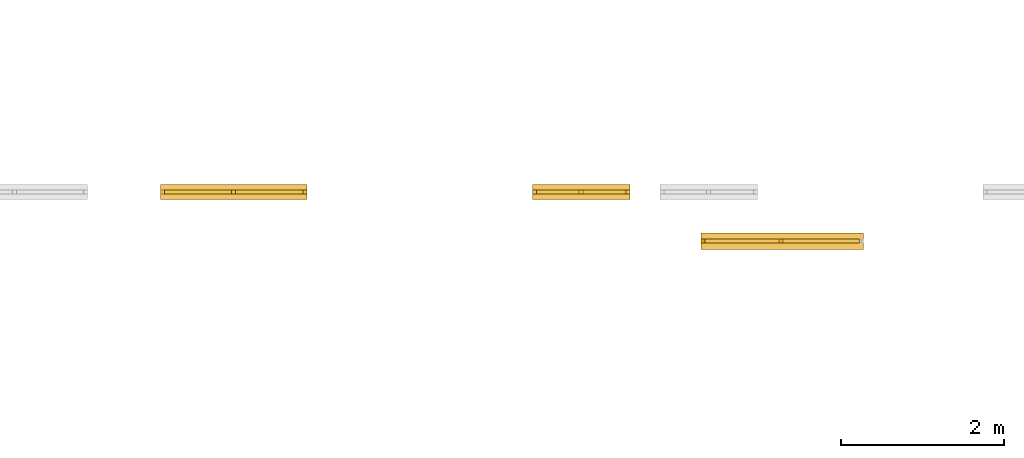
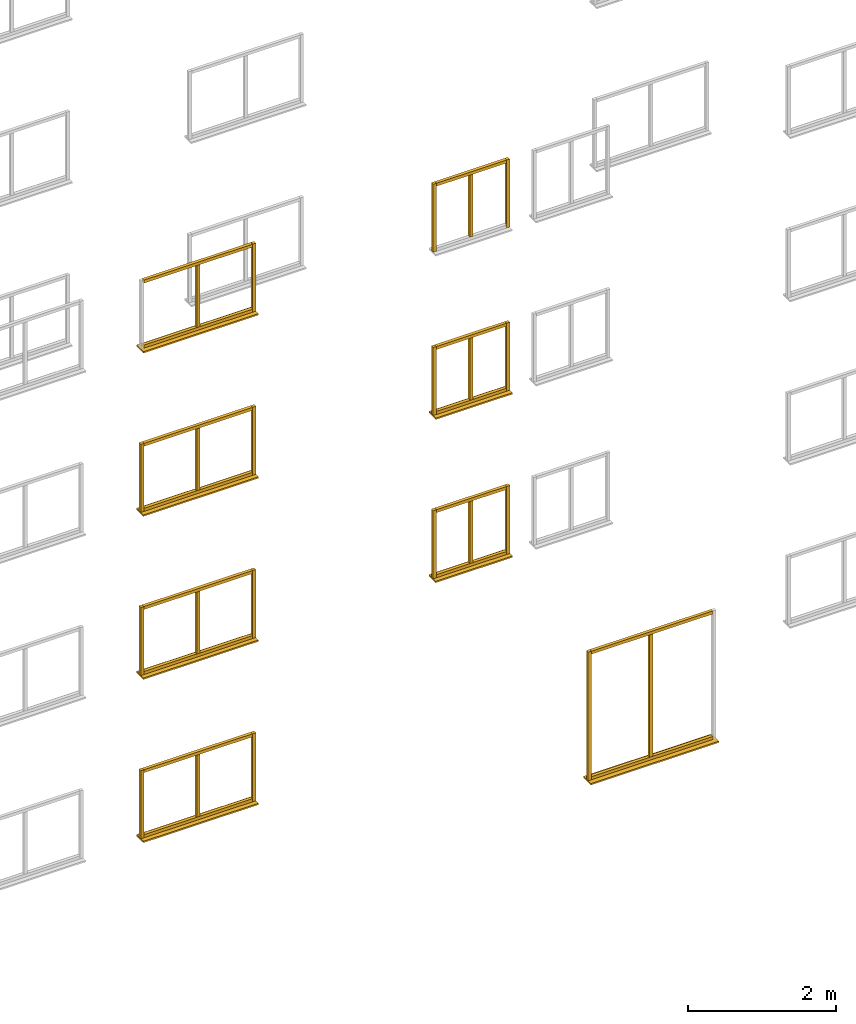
# Not in any storey, part 6 of 22: 44 windows.
"""IFC2X3 model written with IfcOpenShell, lengths in metres."""

from ifc_helpers import new_model, si_unit, frame, origin, place, context, project, faceted_brep, element, save


model = new_model("IFC2X3")

# Units and contexts
model_context = context("Model", 3, precision=1e-06, world=origin())
ifc_project = project(units=[si_unit("LENGTHUNIT", "METRE"), si_unit("PLANEANGLEUNIT", "RADIAN")], contexts=[model_context])

# Windows
placement = place(None, origin())
window_1_placement = place(placement, frame((28.330000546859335, -0.09833720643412, 6.425000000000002), z_axis=(0.0, 0.0, 1.0), x_axis=(1.0, 0.0, 0.0)))
element("IfcWindow", 1, at=window_1_placement, Name="leftFrame", context=model_context, shape_type="Brep", body=[
    faceted_brep([(0.0, 0.05, 0.0), (0.05, 0.05, 0.0), (0.05, 0.0, 0.0), (0.0, 0.0, 0.0), (0.05, 0.0, 1.125), (0.05, 0.05, 1.125), (0.0, 0.05, 1.125), (0.0, 0.0, 1.125), (0.0, 0.05, 0.0), (0.0, 0.0, 0.0), (0.0, 0.0, 1.125), (0.0, 0.05, 1.125), (0.05, 0.05, 0.0), (0.0, 0.05, 0.0), (0.0, 0.05, 1.125), (0.05, 0.05, 1.125), (0.05, 0.0, 0.0), (0.05, 0.05, 0.0), (0.05, 0.05, 1.125), (0.05, 0.0, 1.125), (0.0, 0.0, 0.0), (0.05, 0.0, 0.0), (0.05, 0.0, 1.125), (0.0, 0.0, 1.125)], [[[0, 1, 2, 3]], [[4, 5, 6, 7]], [[8, 9, 10, 11]], [[12, 13, 14, 15]], [[16, 17, 18, 19]], [[20, 21, 22, 23]]]),
])
window_2_placement = place(placement, frame((30.455000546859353, -0.704836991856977, 0.025), z_axis=(0.0, 0.0, 1.0), x_axis=(1.0, 0.0, 0.0)))
element("IfcWindow", 2, at=window_2_placement, Name="bottomFrame", context=model_context, shape_type="Brep", body=[
    faceted_brep([(0.0, 0.05, 0.0), (1.9, 0.05, 0.0), (1.9, 0.0, 0.0), (0.0, 0.0, 0.0), (1.9, 0.0, 0.05), (1.9, 0.05, 0.05), (0.0, 0.05, 0.05), (0.0, 0.0, 0.05), (0.0, 0.05, 0.0), (0.0, 0.0, 0.0), (0.0, 0.0, 0.05), (0.0, 0.05, 0.05), (1.9, 0.05, 0.0), (0.0, 0.05, 0.0), (0.0, 0.05, 0.05), (1.9, 0.05, 0.05), (1.9, 0.0, 0.0), (1.9, 0.05, 0.0), (1.9, 0.05, 0.05), (1.9, 0.0, 0.05), (0.0, 0.0, 0.0), (1.9, 0.0, 0.0), (1.9, 0.0, 0.05), (0.0, 0.0, 0.05)], [[[0, 1, 2, 3]], [[4, 5, 6, 7]], [[8, 9, 10, 11]], [[12, 13, 14, 15]], [[16, 17, 18, 19]], [[20, 21, 22, 23]]]),
])
window_3_placement = place(placement, frame((28.330000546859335, -0.09833720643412, 3.725000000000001), z_axis=(0.0, 0.0, 1.0), x_axis=(1.0, 0.0, 0.0)))
element("IfcWindow", 3, at=window_3_placement, Name="leftFrame", context=model_context, shape_type="Brep", body=[
    faceted_brep([(0.0, 0.05, 0.0), (0.05, 0.05, 0.0), (0.05, 0.0, 0.0), (0.0, 0.0, 0.0), (0.05, 0.0, 1.125), (0.05, 0.05, 1.125), (0.0, 0.05, 1.125), (0.0, 0.0, 1.125), (0.0, 0.05, 0.0), (0.0, 0.0, 0.0), (0.0, 0.0, 1.125), (0.0, 0.05, 1.125), (0.05, 0.05, 0.0), (0.0, 0.05, 0.0), (0.0, 0.05, 1.125), (0.05, 0.05, 1.125), (0.05, 0.0, 0.0), (0.05, 0.05, 0.0), (0.05, 0.05, 1.125), (0.05, 0.0, 1.125), (0.0, 0.0, 0.0), (0.05, 0.0, 0.0), (0.05, 0.0, 1.125), (0.0, 0.0, 1.125)], [[[0, 1, 2, 3]], [[4, 5, 6, 7]], [[8, 9, 10, 11]], [[12, 13, 14, 15]], [[16, 17, 18, 19]], [[20, 21, 22, 23]]]),
])
for number, where, z_axis, x_axis, name in (
    (4, (23.80499999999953, -0.09833720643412, 3.725000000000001), (0.0, 0.0, 1.0), (1.0, 0.0, 0.0), "bottomFrame"),
    (5, (23.80499999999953, -0.09833720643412, 4.800000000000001), (0.0, 0.0, 1.0), (1.0, 0.0, 0.0), "topFrame"),
):
    element("IfcWindow", number, at=place(placement, frame(where, z_axis=z_axis, x_axis=x_axis)), Name=name, context=model_context, shape_type="Brep", body=[
        faceted_brep([(0.0, 0.05, 0.0), (1.7, 0.05, 0.0), (1.7, 0.0, 0.0), (0.0, 0.0, 0.0), (1.7, 0.0, 0.05), (1.7, 0.05, 0.05), (0.0, 0.05, 0.05), (0.0, 0.0, 0.05), (0.0, 0.05, 0.0), (0.0, 0.0, 0.0), (0.0, 0.0, 0.05), (0.0, 0.05, 0.05), (1.7, 0.05, 0.0), (0.0, 0.05, 0.0), (0.0, 0.05, 0.05), (1.7, 0.05, 0.05), (1.7, 0.0, 0.0), (1.7, 0.05, 0.0), (1.7, 0.05, 0.05), (1.7, 0.0, 0.05), (0.0, 0.0, 0.0), (1.7, 0.0, 0.0), (1.7, 0.0, 0.05), (0.0, 0.0, 0.05)], [[[0, 1, 2, 3]], [[4, 5, 6, 7]], [[8, 9, 10, 11]], [[12, 13, 14, 15]], [[16, 17, 18, 19]], [[20, 21, 22, 23]]]),
    ])
window_4_placement = place(placement, frame((24.62999999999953, -0.09833720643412, 3.775000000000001), z_axis=(0.0, 0.0, 1.0), x_axis=(1.0, 0.0, 0.0)))
element("IfcWindow", 6, at=window_4_placement, Name="verticalBar", context=model_context, shape_type="Brep", body=[
    faceted_brep([(0.0, 0.05, 0.0), (0.05, 0.05, 0.0), (0.05, 0.0, 0.0), (0.0, 0.0, 0.0), (0.05, 0.0, 1.025), (0.05, 0.05, 1.025), (0.0, 0.05, 1.025), (0.0, 0.0, 1.025), (0.0, 0.05, 0.0), (0.0, 0.0, 0.0), (0.0, 0.0, 1.025), (0.0, 0.05, 1.025), (0.05, 0.05, 0.0), (0.0, 0.05, 0.0), (0.0, 0.05, 1.025), (0.05, 0.05, 1.025), (0.05, 0.0, 0.0), (0.05, 0.05, 0.0), (0.05, 0.05, 1.025), (0.05, 0.0, 1.025), (0.0, 0.0, 0.0), (0.05, 0.0, 0.0), (0.05, 0.0, 1.025), (0.0, 0.0, 1.025)], [[[0, 1, 2, 3]], [[4, 5, 6, 7]], [[8, 9, 10, 11]], [[12, 13, 14, 15]], [[16, 17, 18, 19]], [[20, 21, 22, 23]]]),
])
window_5_placement = place(placement, frame((23.75499999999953, -0.16683720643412, 3.700000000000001), z_axis=(0.0, 0.0, 1.0), x_axis=(1.0, 0.0, 0.0)))
element("IfcWindow", 7, at=window_5_placement, Name="windowSill", context=model_context, shape_type="Brep", body=[
    faceted_brep([(0.0, 0.187, 0.0), (1.8, 0.187, 0.0), (1.8, 0.0, 0.0), (0.0, 0.0, 0.0), (1.8, 0.0, 0.025), (1.8, 0.187, 0.025), (0.0, 0.187, 0.025), (0.0, 0.0, 0.025), (0.0, 0.187, 0.0), (0.0, 0.0, 0.0), (0.0, 0.0, 0.025), (0.0, 0.187, 0.025), (1.8, 0.187, 0.0), (0.0, 0.187, 0.0), (0.0, 0.187, 0.025), (1.8, 0.187, 0.025), (1.8, 0.0, 0.0), (1.8, 0.187, 0.0), (1.8, 0.187, 0.025), (1.8, 0.0, 0.025), (0.0, 0.0, 0.0), (1.8, 0.0, 0.0), (1.8, 0.0, 0.025), (0.0, 0.0, 0.025)], [[[0, 1, 2, 3]], [[4, 5, 6, 7]], [[8, 9, 10, 11]], [[12, 13, 14, 15]], [[16, 17, 18, 19]], [[20, 21, 22, 23]]]),
])
for number, where, z_axis, x_axis, name in (
    (8, (23.75499999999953, -0.09833720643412, 3.725000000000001), (0.0, 0.0, 1.0), (1.0, 0.0, 0.0), "leftFrame"),
    (9, (25.50499999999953, -0.09833720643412, 3.725000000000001), (0.0, 0.0, 1.0), (1.0, 0.0, 0.0), "rightFrame"),
):
    element("IfcWindow", number, at=place(placement, frame(where, z_axis=z_axis, x_axis=x_axis)), Name=name, context=model_context, shape_type="Brep", body=[
        faceted_brep([(0.0, 0.05, 0.0), (0.05, 0.05, 0.0), (0.05, 0.0, 0.0), (0.0, 0.0, 0.0), (0.05, 0.0, 1.125), (0.05, 0.05, 1.125), (0.0, 0.05, 1.125), (0.0, 0.0, 1.125), (0.0, 0.05, 0.0), (0.0, 0.0, 0.0), (0.0, 0.0, 1.125), (0.0, 0.05, 1.125), (0.05, 0.05, 0.0), (0.0, 0.05, 0.0), (0.0, 0.05, 1.125), (0.05, 0.05, 1.125), (0.05, 0.0, 0.0), (0.05, 0.05, 0.0), (0.05, 0.05, 1.125), (0.05, 0.0, 1.125), (0.0, 0.0, 0.0), (0.05, 0.0, 0.0), (0.05, 0.0, 1.125), (0.0, 0.0, 1.125)], [[[0, 1, 2, 3]], [[4, 5, 6, 7]], [[8, 9, 10, 11]], [[12, 13, 14, 15]], [[16, 17, 18, 19]], [[20, 21, 22, 23]]]),
    ])
window_6_placement = place(placement, frame((24.62999999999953, -0.09833720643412, 1.075), z_axis=(0.0, 0.0, 1.0), x_axis=(1.0, 0.0, 0.0)))
element("IfcWindow", 10, at=window_6_placement, Name="verticalBar", context=model_context, shape_type="Brep", body=[
    faceted_brep([(0.0, 0.05, 0.0), (0.05, 0.05, 0.0), (0.05, 0.0, 0.0), (0.0, 0.0, 0.0), (0.05, 0.0, 1.025), (0.05, 0.05, 1.025), (0.0, 0.05, 1.025), (0.0, 0.0, 1.025), (0.0, 0.05, 0.0), (0.0, 0.0, 0.0), (0.0, 0.0, 1.025), (0.0, 0.05, 1.025), (0.05, 0.05, 0.0), (0.0, 0.05, 0.0), (0.0, 0.05, 1.025), (0.05, 0.05, 1.025), (0.05, 0.0, 0.0), (0.05, 0.05, 0.0), (0.05, 0.05, 1.025), (0.05, 0.0, 1.025), (0.0, 0.0, 0.0), (0.05, 0.0, 0.0), (0.05, 0.0, 1.025), (0.0, 0.0, 1.025)], [[[0, 1, 2, 3]], [[4, 5, 6, 7]], [[8, 9, 10, 11]], [[12, 13, 14, 15]], [[16, 17, 18, 19]], [[20, 21, 22, 23]]]),
])
window_7_placement = place(placement, frame((25.50499999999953, -0.09833720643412, 1.025), z_axis=(0.0, 0.0, 1.0), x_axis=(1.0, 0.0, 0.0)))
element("IfcWindow", 11, at=window_7_placement, Name="rightFrame", context=model_context, shape_type="Brep", body=[
    faceted_brep([(0.0, 0.05, 0.0), (0.05, 0.05, 0.0), (0.05, 0.0, 0.0), (0.0, 0.0, 0.0), (0.05, 0.0, 1.125), (0.05, 0.05, 1.125), (0.0, 0.05, 1.125), (0.0, 0.0, 1.125), (0.0, 0.05, 0.0), (0.0, 0.0, 0.0), (0.0, 0.0, 1.125), (0.0, 0.05, 1.125), (0.05, 0.05, 0.0), (0.0, 0.05, 0.0), (0.0, 0.05, 1.125), (0.05, 0.05, 1.125), (0.05, 0.0, 0.0), (0.05, 0.05, 0.0), (0.05, 0.05, 1.125), (0.05, 0.0, 1.125), (0.0, 0.0, 0.0), (0.05, 0.0, 0.0), (0.05, 0.0, 1.125), (0.0, 0.0, 1.125)], [[[0, 1, 2, 3]], [[4, 5, 6, 7]], [[8, 9, 10, 11]], [[12, 13, 14, 15]], [[16, 17, 18, 19]], [[20, 21, 22, 23]]]),
])
window_8_placement = place(placement, frame((23.80499999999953, -0.09833720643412, 2.100000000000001), z_axis=(0.0, 0.0, 1.0), x_axis=(1.0, 0.0, 0.0)))
element("IfcWindow", 12, at=window_8_placement, Name="topFrame", context=model_context, shape_type="Brep", body=[
    faceted_brep([(0.0, 0.05, 0.0), (1.7, 0.05, 0.0), (1.7, 0.0, 0.0), (0.0, 0.0, 0.0), (1.7, 0.0, 0.05), (1.7, 0.05, 0.05), (0.0, 0.05, 0.05), (0.0, 0.0, 0.05), (0.0, 0.05, 0.0), (0.0, 0.0, 0.0), (0.0, 0.0, 0.05), (0.0, 0.05, 0.05), (1.7, 0.05, 0.0), (0.0, 0.05, 0.0), (0.0, 0.05, 0.05), (1.7, 0.05, 0.05), (1.7, 0.0, 0.0), (1.7, 0.05, 0.0), (1.7, 0.05, 0.05), (1.7, 0.0, 0.05), (0.0, 0.0, 0.0), (1.7, 0.0, 0.0), (1.7, 0.0, 0.05), (0.0, 0.0, 0.05)], [[[0, 1, 2, 3]], [[4, 5, 6, 7]], [[8, 9, 10, 11]], [[12, 13, 14, 15]], [[16, 17, 18, 19]], [[20, 21, 22, 23]]]),
])
window_9_placement = place(placement, frame((23.75499999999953, -0.16683720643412, 1.0), z_axis=(0.0, 0.0, 1.0), x_axis=(1.0, 0.0, 0.0)))
element("IfcWindow", 13, at=window_9_placement, Name="windowSill", context=model_context, shape_type="Brep", body=[
    faceted_brep([(0.0, 0.187, 0.0), (1.8, 0.187, 0.0), (1.8, 0.0, 0.0), (0.0, 0.0, 0.0), (1.8, 0.0, 0.025), (1.8, 0.187, 0.025), (0.0, 0.187, 0.025), (0.0, 0.0, 0.025), (0.0, 0.187, 0.0), (0.0, 0.0, 0.0), (0.0, 0.0, 0.025), (0.0, 0.187, 0.025), (1.8, 0.187, 0.0), (0.0, 0.187, 0.0), (0.0, 0.187, 0.025), (1.8, 0.187, 0.025), (1.8, 0.0, 0.0), (1.8, 0.187, 0.0), (1.8, 0.187, 0.025), (1.8, 0.0, 0.025), (0.0, 0.0, 0.0), (1.8, 0.0, 0.0), (1.8, 0.0, 0.025), (0.0, 0.0, 0.025)], [[[0, 1, 2, 3]], [[4, 5, 6, 7]], [[8, 9, 10, 11]], [[12, 13, 14, 15]], [[16, 17, 18, 19]], [[20, 21, 22, 23]]]),
])
window_10_placement = place(placement, frame((23.80499999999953, -0.09833720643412, 1.025), z_axis=(0.0, 0.0, 1.0), x_axis=(1.0, 0.0, 0.0)))
element("IfcWindow", 14, at=window_10_placement, Name="bottomFrame", context=model_context, shape_type="Brep", body=[
    faceted_brep([(0.0, 0.05, 0.0), (1.7, 0.05, 0.0), (1.7, 0.0, 0.0), (0.0, 0.0, 0.0), (1.7, 0.0, 0.05), (1.7, 0.05, 0.05), (0.0, 0.05, 0.05), (0.0, 0.0, 0.05), (0.0, 0.05, 0.0), (0.0, 0.0, 0.0), (0.0, 0.0, 0.05), (0.0, 0.05, 0.05), (1.7, 0.05, 0.0), (0.0, 0.05, 0.0), (0.0, 0.05, 0.05), (1.7, 0.05, 0.05), (1.7, 0.0, 0.0), (1.7, 0.05, 0.0), (1.7, 0.05, 0.05), (1.7, 0.0, 0.05), (0.0, 0.0, 0.0), (1.7, 0.0, 0.0), (1.7, 0.0, 0.05), (0.0, 0.0, 0.05)], [[[0, 1, 2, 3]], [[4, 5, 6, 7]], [[8, 9, 10, 11]], [[12, 13, 14, 15]], [[16, 17, 18, 19]], [[20, 21, 22, 23]]]),
])
for number, where, z_axis, x_axis, name in (
    (15, (25.50499999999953, -0.09833720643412, 9.125000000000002), (0.0, 0.0, 1.0), (1.0, 0.0, 0.0), "rightFrame"),
    (16, (29.480000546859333, -0.09833720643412, 9.125000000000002), (0.0, 0.0, 1.0), (1.0, 0.0, 0.0), "rightFrame"),
):
    element("IfcWindow", number, at=place(placement, frame(where, z_axis=z_axis, x_axis=x_axis)), Name=name, context=model_context, shape_type="Brep", body=[
        faceted_brep([(0.0, 0.05, 0.0), (0.05, 0.05, 0.0), (0.05, 0.0, 0.0), (0.0, 0.0, 0.0), (0.05, 0.0, 1.125), (0.05, 0.05, 1.125), (0.0, 0.05, 1.125), (0.0, 0.0, 1.125), (0.0, 0.05, 0.0), (0.0, 0.0, 0.0), (0.0, 0.0, 1.125), (0.0, 0.05, 1.125), (0.05, 0.05, 0.0), (0.0, 0.05, 0.0), (0.0, 0.05, 1.125), (0.05, 0.05, 1.125), (0.05, 0.0, 0.0), (0.05, 0.05, 0.0), (0.05, 0.05, 1.125), (0.05, 0.0, 1.125), (0.0, 0.0, 0.0), (0.05, 0.0, 0.0), (0.05, 0.0, 1.125), (0.0, 0.0, 1.125)], [[[0, 1, 2, 3]], [[4, 5, 6, 7]], [[8, 9, 10, 11]], [[12, 13, 14, 15]], [[16, 17, 18, 19]], [[20, 21, 22, 23]]]),
    ])
window_11_placement = place(placement, frame((23.75499999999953, -0.16683720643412, 6.400000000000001), z_axis=(0.0, 0.0, 1.0), x_axis=(1.0, 0.0, 0.0)))
element("IfcWindow", 17, at=window_11_placement, Name="windowSill", context=model_context, shape_type="Brep", body=[
    faceted_brep([(0.0, 0.187, 0.0), (1.8, 0.187, 0.0), (1.8, 0.0, 0.0), (0.0, 0.0, 0.0), (1.8, 0.0, 0.025), (1.8, 0.187, 0.025), (0.0, 0.187, 0.025), (0.0, 0.0, 0.025), (0.0, 0.187, 0.0), (0.0, 0.0, 0.0), (0.0, 0.0, 0.025), (0.0, 0.187, 0.025), (1.8, 0.187, 0.0), (0.0, 0.187, 0.0), (0.0, 0.187, 0.025), (1.8, 0.187, 0.025), (1.8, 0.0, 0.0), (1.8, 0.187, 0.0), (1.8, 0.187, 0.025), (1.8, 0.0, 0.025), (0.0, 0.0, 0.0), (1.8, 0.0, 0.0), (1.8, 0.0, 0.025), (0.0, 0.0, 0.025)], [[[0, 1, 2, 3]], [[4, 5, 6, 7]], [[8, 9, 10, 11]], [[12, 13, 14, 15]], [[16, 17, 18, 19]], [[20, 21, 22, 23]]]),
])
window_12_placement = place(placement, frame((25.50499999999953, -0.09833720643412, 6.425000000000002), z_axis=(0.0, 0.0, 1.0), x_axis=(1.0, 0.0, 0.0)))
element("IfcWindow", 18, at=window_12_placement, Name="rightFrame", context=model_context, shape_type="Brep", body=[
    faceted_brep([(0.0, 0.05, 0.0), (0.05, 0.05, 0.0), (0.05, 0.0, 0.0), (0.0, 0.0, 0.0), (0.05, 0.0, 1.125), (0.05, 0.05, 1.125), (0.0, 0.05, 1.125), (0.0, 0.0, 1.125), (0.0, 0.05, 0.0), (0.0, 0.0, 0.0), (0.0, 0.0, 1.125), (0.0, 0.05, 1.125), (0.05, 0.05, 0.0), (0.0, 0.05, 0.0), (0.0, 0.05, 1.125), (0.05, 0.05, 1.125), (0.05, 0.0, 0.0), (0.05, 0.05, 0.0), (0.05, 0.05, 1.125), (0.05, 0.0, 1.125), (0.0, 0.0, 0.0), (0.05, 0.0, 0.0), (0.05, 0.0, 1.125), (0.0, 0.0, 1.125)], [[[0, 1, 2, 3]], [[4, 5, 6, 7]], [[8, 9, 10, 11]], [[12, 13, 14, 15]], [[16, 17, 18, 19]], [[20, 21, 22, 23]]]),
])
window_13_placement = place(placement, frame((24.62999999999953, -0.09833720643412, 6.475000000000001), z_axis=(0.0, 0.0, 1.0), x_axis=(1.0, 0.0, 0.0)))
element("IfcWindow", 19, at=window_13_placement, Name="verticalBar", context=model_context, shape_type="Brep", body=[
    faceted_brep([(0.0, 0.05, 0.0), (0.05, 0.05, 0.0), (0.05, 0.0, 0.0), (0.0, 0.0, 0.0), (0.05, 0.0, 1.025), (0.05, 0.05, 1.025), (0.0, 0.05, 1.025), (0.0, 0.0, 1.025), (0.0, 0.05, 0.0), (0.0, 0.0, 0.0), (0.0, 0.0, 1.025), (0.0, 0.05, 1.025), (0.05, 0.05, 0.0), (0.0, 0.05, 0.0), (0.0, 0.05, 1.025), (0.05, 0.05, 1.025), (0.05, 0.0, 0.0), (0.05, 0.05, 0.0), (0.05, 0.05, 1.025), (0.05, 0.0, 1.025), (0.0, 0.0, 0.0), (0.05, 0.0, 0.0), (0.05, 0.0, 1.025), (0.0, 0.0, 1.025)], [[[0, 1, 2, 3]], [[4, 5, 6, 7]], [[8, 9, 10, 11]], [[12, 13, 14, 15]], [[16, 17, 18, 19]], [[20, 21, 22, 23]]]),
])
window_14_placement = place(placement, frame((23.80499999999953, -0.09833720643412, 7.500000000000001), z_axis=(0.0, 0.0, 1.0), x_axis=(1.0, 0.0, 0.0)))
element("IfcWindow", 20, at=window_14_placement, Name="topFrame", context=model_context, shape_type="Brep", body=[
    faceted_brep([(0.0, 0.05, 0.0), (1.7, 0.05, 0.0), (1.7, 0.0, 0.0), (0.0, 0.0, 0.0), (1.7, 0.0, 0.05), (1.7, 0.05, 0.05), (0.0, 0.05, 0.05), (0.0, 0.0, 0.05), (0.0, 0.05, 0.0), (0.0, 0.0, 0.0), (0.0, 0.0, 0.05), (0.0, 0.05, 0.05), (1.7, 0.05, 0.0), (0.0, 0.05, 0.0), (0.0, 0.05, 0.05), (1.7, 0.05, 0.05), (1.7, 0.0, 0.0), (1.7, 0.05, 0.0), (1.7, 0.05, 0.05), (1.7, 0.0, 0.05), (0.0, 0.0, 0.0), (1.7, 0.0, 0.0), (1.7, 0.0, 0.05), (0.0, 0.0, 0.05)], [[[0, 1, 2, 3]], [[4, 5, 6, 7]], [[8, 9, 10, 11]], [[12, 13, 14, 15]], [[16, 17, 18, 19]], [[20, 21, 22, 23]]]),
])
window_15_placement = place(placement, frame((28.330000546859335, -0.16683720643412, 6.400000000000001), z_axis=(0.0, 0.0, 1.0), x_axis=(1.0, 0.0, 0.0)))
element("IfcWindow", 21, at=window_15_placement, Name="windowSill", context=model_context, shape_type="Brep", body=[
    faceted_brep([(0.0, 0.187, 0.0), (1.2, 0.187, 0.0), (1.2, 0.0, 0.0), (0.0, 0.0, 0.0), (1.2, 0.0, 0.025), (1.2, 0.187, 0.025), (0.0, 0.187, 0.025), (0.0, 0.0, 0.025), (0.0, 0.187, 0.0), (0.0, 0.0, 0.0), (0.0, 0.0, 0.025), (0.0, 0.187, 0.025), (1.2, 0.187, 0.0), (0.0, 0.187, 0.0), (0.0, 0.187, 0.025), (1.2, 0.187, 0.025), (1.2, 0.0, 0.0), (1.2, 0.187, 0.0), (1.2, 0.187, 0.025), (1.2, 0.0, 0.025), (0.0, 0.0, 0.0), (1.2, 0.0, 0.0), (1.2, 0.0, 0.025), (0.0, 0.0, 0.025)], [[[0, 1, 2, 3]], [[4, 5, 6, 7]], [[8, 9, 10, 11]], [[12, 13, 14, 15]], [[16, 17, 18, 19]], [[20, 21, 22, 23]]]),
])
window_16_placement = place(placement, frame((28.380000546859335, -0.09833720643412, 6.425000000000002), z_axis=(0.0, 0.0, 1.0), x_axis=(1.0, 0.0, 0.0)))
element("IfcWindow", 22, at=window_16_placement, Name="bottomFrame", context=model_context, shape_type="Brep", body=[
    faceted_brep([(0.0, 0.05, 0.0), (1.1, 0.05, 0.0), (1.1, 0.0, 0.0), (0.0, 0.0, 0.0), (1.1, 0.0, 0.05), (1.1, 0.05, 0.05), (0.0, 0.05, 0.05), (0.0, 0.0, 0.05), (0.0, 0.05, 0.0), (0.0, 0.0, 0.0), (0.0, 0.0, 0.05), (0.0, 0.05, 0.05), (1.1, 0.05, 0.0), (0.0, 0.05, 0.0), (0.0, 0.05, 0.05), (1.1, 0.05, 0.05), (1.1, 0.0, 0.0), (1.1, 0.05, 0.0), (1.1, 0.05, 0.05), (1.1, 0.0, 0.05), (0.0, 0.0, 0.0), (1.1, 0.0, 0.0), (1.1, 0.0, 0.05), (0.0, 0.0, 0.05)], [[[0, 1, 2, 3]], [[4, 5, 6, 7]], [[8, 9, 10, 11]], [[12, 13, 14, 15]], [[16, 17, 18, 19]], [[20, 21, 22, 23]]]),
])
window_17_placement = place(placement, frame((28.905000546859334, -0.09833720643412, 6.475000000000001), z_axis=(0.0, 0.0, 1.0), x_axis=(1.0, 0.0, 0.0)))
element("IfcWindow", 23, at=window_17_placement, Name="verticalBar", context=model_context, shape_type="Brep", body=[
    faceted_brep([(0.0, 0.05, 0.0), (0.05, 0.05, 0.0), (0.05, 0.0, 0.0), (0.0, 0.0, 0.0), (0.05, 0.0, 1.025), (0.05, 0.05, 1.025), (0.0, 0.05, 1.025), (0.0, 0.0, 1.025), (0.0, 0.05, 0.0), (0.0, 0.0, 0.0), (0.0, 0.0, 1.025), (0.0, 0.05, 1.025), (0.05, 0.05, 0.0), (0.0, 0.05, 0.0), (0.0, 0.05, 1.025), (0.05, 0.05, 1.025), (0.05, 0.0, 0.0), (0.05, 0.05, 0.0), (0.05, 0.05, 1.025), (0.05, 0.0, 1.025), (0.0, 0.0, 0.0), (0.05, 0.0, 0.0), (0.05, 0.0, 1.025), (0.0, 0.0, 1.025)], [[[0, 1, 2, 3]], [[4, 5, 6, 7]], [[8, 9, 10, 11]], [[12, 13, 14, 15]], [[16, 17, 18, 19]], [[20, 21, 22, 23]]]),
])
window_18_placement = place(placement, frame((29.480000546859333, -0.09833720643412, 6.425000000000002), z_axis=(0.0, 0.0, 1.0), x_axis=(1.0, 0.0, 0.0)))
element("IfcWindow", 24, at=window_18_placement, Name="rightFrame", context=model_context, shape_type="Brep", body=[
    faceted_brep([(0.0, 0.05, 0.0), (0.05, 0.05, 0.0), (0.05, 0.0, 0.0), (0.0, 0.0, 0.0), (0.05, 0.0, 1.125), (0.05, 0.05, 1.125), (0.0, 0.05, 1.125), (0.0, 0.0, 1.125), (0.0, 0.05, 0.0), (0.0, 0.0, 0.0), (0.0, 0.0, 1.125), (0.0, 0.05, 1.125), (0.05, 0.05, 0.0), (0.0, 0.05, 0.0), (0.0, 0.05, 1.125), (0.05, 0.05, 1.125), (0.05, 0.0, 0.0), (0.05, 0.05, 0.0), (0.05, 0.05, 1.125), (0.05, 0.0, 1.125), (0.0, 0.0, 0.0), (0.05, 0.0, 0.0), (0.05, 0.0, 1.125), (0.0, 0.0, 1.125)], [[[0, 1, 2, 3]], [[4, 5, 6, 7]], [[8, 9, 10, 11]], [[12, 13, 14, 15]], [[16, 17, 18, 19]], [[20, 21, 22, 23]]]),
])
window_19_placement = place(placement, frame((28.380000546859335, -0.09833720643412, 7.500000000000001), z_axis=(0.0, 0.0, 1.0), x_axis=(1.0, 0.0, 0.0)))
element("IfcWindow", 25, at=window_19_placement, Name="topFrame", context=model_context, shape_type="Brep", body=[
    faceted_brep([(0.0, 0.05, 0.0), (1.1, 0.05, 0.0), (1.1, 0.0, 0.0), (0.0, 0.0, 0.0), (1.1, 0.0, 0.05), (1.1, 0.05, 0.05), (0.0, 0.05, 0.05), (0.0, 0.0, 0.05), (0.0, 0.05, 0.0), (0.0, 0.0, 0.0), (0.0, 0.0, 0.05), (0.0, 0.05, 0.05), (1.1, 0.05, 0.0), (0.0, 0.05, 0.0), (0.0, 0.05, 0.05), (1.1, 0.05, 0.05), (1.1, 0.0, 0.0), (1.1, 0.05, 0.0), (1.1, 0.05, 0.05), (1.1, 0.0, 0.05), (0.0, 0.0, 0.0), (1.1, 0.0, 0.0), (1.1, 0.0, 0.05), (0.0, 0.0, 0.05)], [[[0, 1, 2, 3]], [[4, 5, 6, 7]], [[8, 9, 10, 11]], [[12, 13, 14, 15]], [[16, 17, 18, 19]], [[20, 21, 22, 23]]]),
])
window_20_placement = place(placement, frame((23.80499999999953, -0.09833720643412, 6.425000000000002), z_axis=(0.0, 0.0, 1.0), x_axis=(1.0, 0.0, 0.0)))
element("IfcWindow", 26, at=window_20_placement, Name="bottomFrame", context=model_context, shape_type="Brep", body=[
    faceted_brep([(0.0, 0.05, 0.0), (1.7, 0.05, 0.0), (1.7, 0.0, 0.0), (0.0, 0.0, 0.0), (1.7, 0.0, 0.05), (1.7, 0.05, 0.05), (0.0, 0.05, 0.05), (0.0, 0.0, 0.05), (0.0, 0.05, 0.0), (0.0, 0.0, 0.0), (0.0, 0.0, 0.05), (0.0, 0.05, 0.05), (1.7, 0.05, 0.0), (0.0, 0.05, 0.0), (0.0, 0.05, 0.05), (1.7, 0.05, 0.05), (1.7, 0.0, 0.0), (1.7, 0.05, 0.0), (1.7, 0.05, 0.05), (1.7, 0.0, 0.05), (0.0, 0.0, 0.0), (1.7, 0.0, 0.0), (1.7, 0.0, 0.05), (0.0, 0.0, 0.05)], [[[0, 1, 2, 3]], [[4, 5, 6, 7]], [[8, 9, 10, 11]], [[12, 13, 14, 15]], [[16, 17, 18, 19]], [[20, 21, 22, 23]]]),
])
window_21_placement = place(placement, frame((31.36750054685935, -0.704836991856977, 0.075), z_axis=(0.0, 0.0, 1.0), x_axis=(1.0, 0.0, 0.0)))
element("IfcWindow", 27, at=window_21_placement, Name="verticalLeftBar", context=model_context, shape_type="Brep", body=[
    faceted_brep([(0.0, 0.05, 0.0), (0.05, 0.05, 0.0), (0.05, 0.0, 0.0), (0.0, 0.0, 0.0), (0.05, 0.0, 2.025), (0.05, 0.05, 2.025), (0.0, 0.05, 2.025), (0.0, 0.0, 2.025), (0.0, 0.05, 0.0), (0.0, 0.0, 0.0), (0.0, 0.0, 2.025), (0.0, 0.05, 2.025), (0.05, 0.05, 0.0), (0.0, 0.05, 0.0), (0.0, 0.05, 2.025), (0.05, 0.05, 2.025), (0.05, 0.0, 0.0), (0.05, 0.05, 0.0), (0.05, 0.05, 2.025), (0.05, 0.0, 2.025), (0.0, 0.0, 0.0), (0.05, 0.0, 0.0), (0.05, 0.0, 2.025), (0.0, 0.0, 2.025)], [[[0, 1, 2, 3]], [[4, 5, 6, 7]], [[8, 9, 10, 11]], [[12, 13, 14, 15]], [[16, 17, 18, 19]], [[20, 21, 22, 23]]]),
])
window_22_placement = place(placement, frame((30.405000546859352, -0.704836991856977, 0.025), z_axis=(0.0, 0.0, 1.0), x_axis=(1.0, 0.0, 0.0)))
element("IfcWindow", 28, at=window_22_placement, Name="leftFrame", context=model_context, shape_type="Brep", body=[
    faceted_brep([(0.0, 0.05, 0.0), (0.05, 0.05, 0.0), (0.05, 0.0, 0.0), (0.0, 0.0, 0.0), (0.05, 0.0, 2.125), (0.05, 0.05, 2.125), (0.0, 0.05, 2.125), (0.0, 0.0, 2.125), (0.0, 0.05, 0.0), (0.0, 0.0, 0.0), (0.0, 0.0, 2.125), (0.0, 0.05, 2.125), (0.05, 0.05, 0.0), (0.0, 0.05, 0.0), (0.0, 0.05, 2.125), (0.05, 0.05, 2.125), (0.05, 0.0, 0.0), (0.05, 0.05, 0.0), (0.05, 0.05, 2.125), (0.05, 0.0, 2.125), (0.0, 0.0, 0.0), (0.05, 0.0, 0.0), (0.05, 0.0, 2.125), (0.0, 0.0, 2.125)], [[[0, 1, 2, 3]], [[4, 5, 6, 7]], [[8, 9, 10, 11]], [[12, 13, 14, 15]], [[16, 17, 18, 19]], [[20, 21, 22, 23]]]),
])
window_23_placement = place(placement, frame((30.455000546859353, -0.704836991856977, 2.1), z_axis=(0.0, 0.0, 1.0), x_axis=(1.0, 0.0, 0.0)))
element("IfcWindow", 29, at=window_23_placement, Name="topFrame", context=model_context, shape_type="Brep", body=[
    faceted_brep([(0.0, 0.05, 0.0), (1.9, 0.05, 0.0), (1.9, 0.0, 0.0), (0.0, 0.0, 0.0), (1.9, 0.0, 0.05), (1.9, 0.05, 0.05), (0.0, 0.05, 0.05), (0.0, 0.0, 0.05), (0.0, 0.05, 0.0), (0.0, 0.0, 0.0), (0.0, 0.0, 0.05), (0.0, 0.05, 0.05), (1.9, 0.05, 0.0), (0.0, 0.05, 0.0), (0.0, 0.05, 0.05), (1.9, 0.05, 0.05), (1.9, 0.0, 0.0), (1.9, 0.05, 0.0), (1.9, 0.05, 0.05), (1.9, 0.0, 0.05), (0.0, 0.0, 0.0), (1.9, 0.0, 0.0), (1.9, 0.0, 0.05), (0.0, 0.0, 0.05)], [[[0, 1, 2, 3]], [[4, 5, 6, 7]], [[8, 9, 10, 11]], [[12, 13, 14, 15]], [[16, 17, 18, 19]], [[20, 21, 22, 23]]]),
])
window_24_placement = place(placement, frame((30.405000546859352, -0.779836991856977, 0.0), z_axis=(0.0, 0.0, 1.0), x_axis=(1.0, 0.0, 0.0)))
element("IfcWindow", 30, at=window_24_placement, Name="windowSill", context=model_context, shape_type="Brep", body=[
    faceted_brep([(0.0, 0.2, 0.0), (2.0, 0.2, 0.0), (2.0, 0.0, 0.0), (0.0, 0.0, 0.0), (2.0, 0.0, 0.025), (2.0, 0.2, 0.025), (0.0, 0.2, 0.025), (0.0, 0.0, 0.025), (0.0, 0.2, 0.0), (0.0, 0.0, 0.0), (0.0, 0.0, 0.025), (0.0, 0.2, 0.025), (2.0, 0.2, 0.0), (0.0, 0.2, 0.0), (0.0, 0.2, 0.025), (2.0, 0.2, 0.025), (2.0, 0.0, 0.0), (2.0, 0.2, 0.0), (2.0, 0.2, 0.025), (2.0, 0.0, 0.025), (0.0, 0.0, 0.0), (2.0, 0.0, 0.0), (2.0, 0.0, 0.025), (0.0, 0.0, 0.025)], [[[0, 1, 2, 3]], [[4, 5, 6, 7]], [[8, 9, 10, 11]], [[12, 13, 14, 15]], [[16, 17, 18, 19]], [[20, 21, 22, 23]]]),
])
window_25_placement = place(placement, frame((23.75499999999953, -0.09833720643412, 1.025), z_axis=(0.0, 0.0, 1.0), x_axis=(1.0, 0.0, 0.0)))
element("IfcWindow", 31, at=window_25_placement, Name="leftFrame", context=model_context, shape_type="Brep", body=[
    faceted_brep([(0.0, 0.05, 0.0), (0.05, 0.05, 0.0), (0.05, 0.0, 0.0), (0.0, 0.0, 0.0), (0.05, 0.0, 1.125), (0.05, 0.05, 1.125), (0.0, 0.05, 1.125), (0.0, 0.0, 1.125), (0.0, 0.05, 0.0), (0.0, 0.0, 0.0), (0.0, 0.0, 1.125), (0.0, 0.05, 1.125), (0.05, 0.05, 0.0), (0.0, 0.05, 0.0), (0.0, 0.05, 1.125), (0.05, 0.05, 1.125), (0.05, 0.0, 0.0), (0.05, 0.05, 0.0), (0.05, 0.05, 1.125), (0.05, 0.0, 1.125), (0.0, 0.0, 0.0), (0.05, 0.0, 0.0), (0.05, 0.0, 1.125), (0.0, 0.0, 1.125)], [[[0, 1, 2, 3]], [[4, 5, 6, 7]], [[8, 9, 10, 11]], [[12, 13, 14, 15]], [[16, 17, 18, 19]], [[20, 21, 22, 23]]]),
])
window_26_placement = place(placement, frame((23.80499999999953, -0.09833720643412, 10.200000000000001), z_axis=(0.0, 0.0, 1.0), x_axis=(1.0, 0.0, 0.0)))
element("IfcWindow", 32, at=window_26_placement, Name="topFrame", context=model_context, shape_type="Brep", body=[
    faceted_brep([(0.0, 0.05, 0.0), (1.7, 0.05, 0.0), (1.7, 0.0, 0.0), (0.0, 0.0, 0.0), (1.7, 0.0, 0.05), (1.7, 0.05, 0.05), (0.0, 0.05, 0.05), (0.0, 0.0, 0.05), (0.0, 0.05, 0.0), (0.0, 0.0, 0.0), (0.0, 0.0, 0.05), (0.0, 0.05, 0.05), (1.7, 0.05, 0.0), (0.0, 0.05, 0.0), (0.0, 0.05, 0.05), (1.7, 0.05, 0.05), (1.7, 0.0, 0.0), (1.7, 0.05, 0.0), (1.7, 0.05, 0.05), (1.7, 0.0, 0.05), (0.0, 0.0, 0.0), (1.7, 0.0, 0.0), (1.7, 0.0, 0.05), (0.0, 0.0, 0.05)], [[[0, 1, 2, 3]], [[4, 5, 6, 7]], [[8, 9, 10, 11]], [[12, 13, 14, 15]], [[16, 17, 18, 19]], [[20, 21, 22, 23]]]),
])
window_27_placement = place(placement, frame((28.380000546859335, -0.09833720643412, 4.800000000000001), z_axis=(0.0, 0.0, 1.0), x_axis=(1.0, 0.0, 0.0)))
element("IfcWindow", 33, at=window_27_placement, Name="topFrame", context=model_context, shape_type="Brep", body=[
    faceted_brep([(0.0, 0.05, 0.0), (1.1, 0.05, 0.0), (1.1, 0.0, 0.0), (0.0, 0.0, 0.0), (1.1, 0.0, 0.05), (1.1, 0.05, 0.05), (0.0, 0.05, 0.05), (0.0, 0.0, 0.05), (0.0, 0.05, 0.0), (0.0, 0.0, 0.0), (0.0, 0.0, 0.05), (0.0, 0.05, 0.05), (1.1, 0.05, 0.0), (0.0, 0.05, 0.0), (0.0, 0.05, 0.05), (1.1, 0.05, 0.05), (1.1, 0.0, 0.0), (1.1, 0.05, 0.0), (1.1, 0.05, 0.05), (1.1, 0.0, 0.05), (0.0, 0.0, 0.0), (1.1, 0.0, 0.0), (1.1, 0.0, 0.05), (0.0, 0.0, 0.05)], [[[0, 1, 2, 3]], [[4, 5, 6, 7]], [[8, 9, 10, 11]], [[12, 13, 14, 15]], [[16, 17, 18, 19]], [[20, 21, 22, 23]]]),
])
window_28_placement = place(placement, frame((29.480000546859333, -0.09833720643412, 3.725000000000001), z_axis=(0.0, 0.0, 1.0), x_axis=(1.0, 0.0, 0.0)))
element("IfcWindow", 34, at=window_28_placement, Name="rightFrame", context=model_context, shape_type="Brep", body=[
    faceted_brep([(0.0, 0.05, 0.0), (0.05, 0.05, 0.0), (0.05, 0.0, 0.0), (0.0, 0.0, 0.0), (0.05, 0.0, 1.125), (0.05, 0.05, 1.125), (0.0, 0.05, 1.125), (0.0, 0.0, 1.125), (0.0, 0.05, 0.0), (0.0, 0.0, 0.0), (0.0, 0.0, 1.125), (0.0, 0.05, 1.125), (0.05, 0.05, 0.0), (0.0, 0.05, 0.0), (0.0, 0.05, 1.125), (0.05, 0.05, 1.125), (0.05, 0.0, 0.0), (0.05, 0.05, 0.0), (0.05, 0.05, 1.125), (0.05, 0.0, 1.125), (0.0, 0.0, 0.0), (0.05, 0.0, 0.0), (0.05, 0.0, 1.125), (0.0, 0.0, 1.125)], [[[0, 1, 2, 3]], [[4, 5, 6, 7]], [[8, 9, 10, 11]], [[12, 13, 14, 15]], [[16, 17, 18, 19]], [[20, 21, 22, 23]]]),
])
window_29_placement = place(placement, frame((23.80499999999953, -0.09833720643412, 9.125000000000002), z_axis=(0.0, 0.0, 1.0), x_axis=(1.0, 0.0, 0.0)))
element("IfcWindow", 35, at=window_29_placement, Name="bottomFrame", context=model_context, shape_type="Brep", body=[
    faceted_brep([(0.0, 0.05, 0.0), (1.7, 0.05, 0.0), (1.7, 0.0, 0.0), (0.0, 0.0, 0.0), (1.7, 0.0, 0.05), (1.7, 0.05, 0.05), (0.0, 0.05, 0.05), (0.0, 0.0, 0.05), (0.0, 0.05, 0.0), (0.0, 0.0, 0.0), (0.0, 0.0, 0.05), (0.0, 0.05, 0.05), (1.7, 0.05, 0.0), (0.0, 0.05, 0.0), (0.0, 0.05, 0.05), (1.7, 0.05, 0.05), (1.7, 0.0, 0.0), (1.7, 0.05, 0.0), (1.7, 0.05, 0.05), (1.7, 0.0, 0.05), (0.0, 0.0, 0.0), (1.7, 0.0, 0.0), (1.7, 0.0, 0.05), (0.0, 0.0, 0.05)], [[[0, 1, 2, 3]], [[4, 5, 6, 7]], [[8, 9, 10, 11]], [[12, 13, 14, 15]], [[16, 17, 18, 19]], [[20, 21, 22, 23]]]),
])
window_30_placement = place(placement, frame((24.62999999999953, -0.09833720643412, 9.175), z_axis=(0.0, 0.0, 1.0), x_axis=(1.0, 0.0, 0.0)))
element("IfcWindow", 36, at=window_30_placement, Name="verticalBar", context=model_context, shape_type="Brep", body=[
    faceted_brep([(0.0, 0.05, 0.0), (0.05, 0.05, 0.0), (0.05, 0.0, 0.0), (0.0, 0.0, 0.0), (0.05, 0.0, 1.025), (0.05, 0.05, 1.025), (0.0, 0.05, 1.025), (0.0, 0.0, 1.025), (0.0, 0.05, 0.0), (0.0, 0.0, 0.0), (0.0, 0.0, 1.025), (0.0, 0.05, 1.025), (0.05, 0.05, 0.0), (0.0, 0.05, 0.0), (0.0, 0.05, 1.025), (0.05, 0.05, 1.025), (0.05, 0.0, 0.0), (0.05, 0.05, 0.0), (0.05, 0.05, 1.025), (0.05, 0.0, 1.025), (0.0, 0.0, 0.0), (0.05, 0.0, 0.0), (0.05, 0.0, 1.025), (0.0, 0.0, 1.025)], [[[0, 1, 2, 3]], [[4, 5, 6, 7]], [[8, 9, 10, 11]], [[12, 13, 14, 15]], [[16, 17, 18, 19]], [[20, 21, 22, 23]]]),
])
window_31_placement = place(placement, frame((23.75499999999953, -0.16683720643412, 9.100000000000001), z_axis=(0.0, 0.0, 1.0), x_axis=(1.0, 0.0, 0.0)))
element("IfcWindow", 37, at=window_31_placement, Name="windowSill", context=model_context, shape_type="Brep", body=[
    faceted_brep([(0.0, 0.187, 0.0), (1.8, 0.187, 0.0), (1.8, 0.0, 0.0), (0.0, 0.0, 0.0), (1.8, 0.0, 0.025), (1.8, 0.187, 0.025), (0.0, 0.187, 0.025), (0.0, 0.0, 0.025), (0.0, 0.187, 0.0), (0.0, 0.0, 0.0), (0.0, 0.0, 0.025), (0.0, 0.187, 0.025), (1.8, 0.187, 0.0), (0.0, 0.187, 0.0), (0.0, 0.187, 0.025), (1.8, 0.187, 0.025), (1.8, 0.0, 0.0), (1.8, 0.187, 0.0), (1.8, 0.187, 0.025), (1.8, 0.0, 0.025), (0.0, 0.0, 0.0), (1.8, 0.0, 0.0), (1.8, 0.0, 0.025), (0.0, 0.0, 0.025)], [[[0, 1, 2, 3]], [[4, 5, 6, 7]], [[8, 9, 10, 11]], [[12, 13, 14, 15]], [[16, 17, 18, 19]], [[20, 21, 22, 23]]]),
])
window_32_placement = place(placement, frame((28.905000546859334, -0.09833720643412, 3.775000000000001), z_axis=(0.0, 0.0, 1.0), x_axis=(1.0, 0.0, 0.0)))
element("IfcWindow", 38, at=window_32_placement, Name="verticalBar", context=model_context, shape_type="Brep", body=[
    faceted_brep([(0.0, 0.05, 0.0), (0.05, 0.05, 0.0), (0.05, 0.0, 0.0), (0.0, 0.0, 0.0), (0.05, 0.0, 1.025), (0.05, 0.05, 1.025), (0.0, 0.05, 1.025), (0.0, 0.0, 1.025), (0.0, 0.05, 0.0), (0.0, 0.0, 0.0), (0.0, 0.0, 1.025), (0.0, 0.05, 1.025), (0.05, 0.05, 0.0), (0.0, 0.05, 0.0), (0.0, 0.05, 1.025), (0.05, 0.05, 1.025), (0.05, 0.0, 0.0), (0.05, 0.05, 0.0), (0.05, 0.05, 1.025), (0.05, 0.0, 1.025), (0.0, 0.0, 0.0), (0.05, 0.0, 0.0), (0.05, 0.0, 1.025), (0.0, 0.0, 1.025)], [[[0, 1, 2, 3]], [[4, 5, 6, 7]], [[8, 9, 10, 11]], [[12, 13, 14, 15]], [[16, 17, 18, 19]], [[20, 21, 22, 23]]]),
])
window_33_placement = place(placement, frame((28.380000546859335, -0.09833720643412, 3.725000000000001), z_axis=(0.0, 0.0, 1.0), x_axis=(1.0, 0.0, 0.0)))
element("IfcWindow", 39, at=window_33_placement, Name="bottomFrame", context=model_context, shape_type="Brep", body=[
    faceted_brep([(0.0, 0.05, 0.0), (1.1, 0.05, 0.0), (1.1, 0.0, 0.0), (0.0, 0.0, 0.0), (1.1, 0.0, 0.05), (1.1, 0.05, 0.05), (0.0, 0.05, 0.05), (0.0, 0.0, 0.05), (0.0, 0.05, 0.0), (0.0, 0.0, 0.0), (0.0, 0.0, 0.05), (0.0, 0.05, 0.05), (1.1, 0.05, 0.0), (0.0, 0.05, 0.0), (0.0, 0.05, 0.05), (1.1, 0.05, 0.05), (1.1, 0.0, 0.0), (1.1, 0.05, 0.0), (1.1, 0.05, 0.05), (1.1, 0.0, 0.05), (0.0, 0.0, 0.0), (1.1, 0.0, 0.0), (1.1, 0.0, 0.05), (0.0, 0.0, 0.05)], [[[0, 1, 2, 3]], [[4, 5, 6, 7]], [[8, 9, 10, 11]], [[12, 13, 14, 15]], [[16, 17, 18, 19]], [[20, 21, 22, 23]]]),
])
window_34_placement = place(placement, frame((28.330000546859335, -0.16683720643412, 3.700000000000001), z_axis=(0.0, 0.0, 1.0), x_axis=(1.0, 0.0, 0.0)))
element("IfcWindow", 40, at=window_34_placement, Name="windowSill", context=model_context, shape_type="Brep", body=[
    faceted_brep([(0.0, 0.187, 0.0), (1.2, 0.187, 0.0), (1.2, 0.0, 0.0), (0.0, 0.0, 0.0), (1.2, 0.0, 0.025), (1.2, 0.187, 0.025), (0.0, 0.187, 0.025), (0.0, 0.0, 0.025), (0.0, 0.187, 0.0), (0.0, 0.0, 0.0), (0.0, 0.0, 0.025), (0.0, 0.187, 0.025), (1.2, 0.187, 0.0), (0.0, 0.187, 0.0), (0.0, 0.187, 0.025), (1.2, 0.187, 0.025), (1.2, 0.0, 0.0), (1.2, 0.187, 0.0), (1.2, 0.187, 0.025), (1.2, 0.0, 0.025), (0.0, 0.0, 0.0), (1.2, 0.0, 0.0), (1.2, 0.0, 0.025), (0.0, 0.0, 0.025)], [[[0, 1, 2, 3]], [[4, 5, 6, 7]], [[8, 9, 10, 11]], [[12, 13, 14, 15]], [[16, 17, 18, 19]], [[20, 21, 22, 23]]]),
])
window_35_placement = place(placement, frame((28.380000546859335, -0.09833720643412, 10.200000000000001), z_axis=(0.0, 0.0, 1.0), x_axis=(1.0, 0.0, 0.0)))
element("IfcWindow", 41, at=window_35_placement, Name="topFrame", context=model_context, shape_type="Brep", body=[
    faceted_brep([(0.0, 0.05, 0.0), (1.1, 0.05, 0.0), (1.1, 0.0, 0.0), (0.0, 0.0, 0.0), (1.1, 0.0, 0.05), (1.1, 0.05, 0.05), (0.0, 0.05, 0.05), (0.0, 0.0, 0.05), (0.0, 0.05, 0.0), (0.0, 0.0, 0.0), (0.0, 0.0, 0.05), (0.0, 0.05, 0.05), (1.1, 0.05, 0.0), (0.0, 0.05, 0.0), (0.0, 0.05, 0.05), (1.1, 0.05, 0.05), (1.1, 0.0, 0.0), (1.1, 0.05, 0.0), (1.1, 0.05, 0.05), (1.1, 0.0, 0.05), (0.0, 0.0, 0.0), (1.1, 0.0, 0.0), (1.1, 0.0, 0.05), (0.0, 0.0, 0.05)], [[[0, 1, 2, 3]], [[4, 5, 6, 7]], [[8, 9, 10, 11]], [[12, 13, 14, 15]], [[16, 17, 18, 19]], [[20, 21, 22, 23]]]),
])
window_36_placement = place(placement, frame((28.905000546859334, -0.09833720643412, 9.175), z_axis=(0.0, 0.0, 1.0), x_axis=(1.0, 0.0, 0.0)))
element("IfcWindow", 42, at=window_36_placement, Name="verticalBar", context=model_context, shape_type="Brep", body=[
    faceted_brep([(0.0, 0.05, 0.0), (0.05, 0.05, 0.0), (0.05, 0.0, 0.0), (0.0, 0.0, 0.0), (0.05, 0.0, 1.025), (0.05, 0.05, 1.025), (0.0, 0.05, 1.025), (0.0, 0.0, 1.025), (0.0, 0.05, 0.0), (0.0, 0.0, 0.0), (0.0, 0.0, 1.025), (0.0, 0.05, 1.025), (0.05, 0.05, 0.0), (0.0, 0.05, 0.0), (0.0, 0.05, 1.025), (0.05, 0.05, 1.025), (0.05, 0.0, 0.0), (0.05, 0.05, 0.0), (0.05, 0.05, 1.025), (0.05, 0.0, 1.025), (0.0, 0.0, 0.0), (0.05, 0.0, 0.0), (0.05, 0.0, 1.025), (0.0, 0.0, 1.025)], [[[0, 1, 2, 3]], [[4, 5, 6, 7]], [[8, 9, 10, 11]], [[12, 13, 14, 15]], [[16, 17, 18, 19]], [[20, 21, 22, 23]]]),
])
for number, where, z_axis, x_axis, name in (
    (43, (28.330000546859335, -0.09833720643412, 9.125000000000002), (0.0, 0.0, 1.0), (1.0, 0.0, 0.0), "leftFrame"),
    (44, (23.75499999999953, -0.09833720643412, 6.425000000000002), (0.0, 0.0, 1.0), (1.0, 0.0, 0.0), "leftFrame"),
):
    element("IfcWindow", number, at=place(placement, frame(where, z_axis=z_axis, x_axis=x_axis)), Name=name, context=model_context, shape_type="Brep", body=[
        faceted_brep([(0.0, 0.05, 0.0), (0.05, 0.05, 0.0), (0.05, 0.0, 0.0), (0.0, 0.0, 0.0), (0.05, 0.0, 1.125), (0.05, 0.05, 1.125), (0.0, 0.05, 1.125), (0.0, 0.0, 1.125), (0.0, 0.05, 0.0), (0.0, 0.0, 0.0), (0.0, 0.0, 1.125), (0.0, 0.05, 1.125), (0.05, 0.05, 0.0), (0.0, 0.05, 0.0), (0.0, 0.05, 1.125), (0.05, 0.05, 1.125), (0.05, 0.0, 0.0), (0.05, 0.05, 0.0), (0.05, 0.05, 1.125), (0.05, 0.0, 1.125), (0.0, 0.0, 0.0), (0.05, 0.0, 0.0), (0.05, 0.0, 1.125), (0.0, 0.0, 1.125)], [[[0, 1, 2, 3]], [[4, 5, 6, 7]], [[8, 9, 10, 11]], [[12, 13, 14, 15]], [[16, 17, 18, 19]], [[20, 21, 22, 23]]]),
    ])

save(model, "model.ifc")
